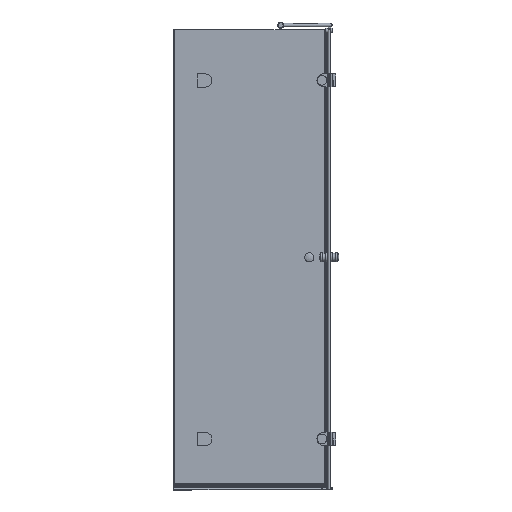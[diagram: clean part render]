
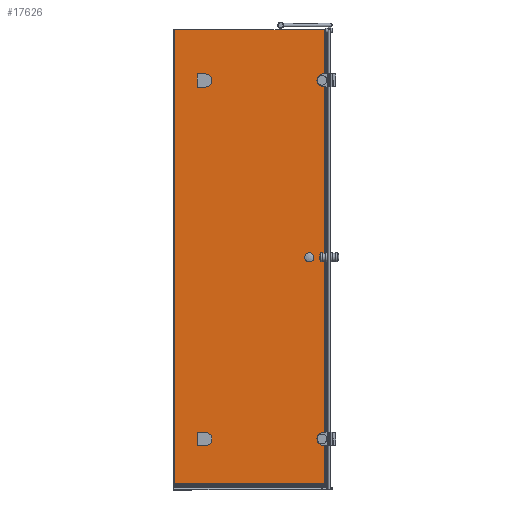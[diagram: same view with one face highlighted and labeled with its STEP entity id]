
A CAD part, front view. The second image highlights one B-rep face of the part: STEP entity #17626.
In plain terms, the highlighted planar face has unit normal (0, -1, 0).
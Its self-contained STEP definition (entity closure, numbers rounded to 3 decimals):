
#676=PLANE($,#18997);
#1148=LINE($,#25279,#2959);
#1152=LINE($,#25287,#2963);
#1156=LINE($,#25298,#2967);
#1198=LINE($,#25407,#3009);
#1202=LINE($,#25415,#3013);
#1206=LINE($,#25426,#3017);
#2384=LINE($,#28579,#4195);
#2431=LINE($,#28798,#4242);
#2432=LINE($,#28800,#4243);
#2433=LINE($,#28801,#4244);
#2959=VECTOR($,#20207,52.);
#2963=VECTOR($,#20213,23.);
#2967=VECTOR($,#20225,23.);
#3009=VECTOR($,#20331,52.);
#3013=VECTOR($,#20337,23.);
#3017=VECTOR($,#20349,23.);
#4195=VECTOR($,#23115,1875.4);
#4242=VECTOR($,#23260,620.2);
#4243=VECTOR($,#23261,1875.4);
#4244=VECTOR($,#23262,620.2);
#4563=FACE_BOUND($,#6411,.T.);
#4564=FACE_BOUND($,#6412,.T.);
#4565=FACE_BOUND($,#6413,.T.);
#6411=EDGE_LOOP($,(#14746,#14747,#14748,#14749));
#6412=EDGE_LOOP($,(#14750,#14751,#14752,#14753));
#6413=EDGE_LOOP($,(#14754,#14755,#14756,#14757));
#6742=CIRCLE($,#18115,26.);
#6754=CIRCLE($,#18152,26.);
#7404=VERTEX_POINT($,#25277);
#7405=VERTEX_POINT($,#25278);
#7408=VERTEX_POINT($,#25286);
#7410=VERTEX_POINT($,#25292);
#7445=VERTEX_POINT($,#25405);
#7446=VERTEX_POINT($,#25406);
#7449=VERTEX_POINT($,#25414);
#7451=VERTEX_POINT($,#25420);
#8309=VERTEX_POINT($,#28577);
#8310=VERTEX_POINT($,#28578);
#8367=VERTEX_POINT($,#28797);
#8368=VERTEX_POINT($,#28799);
#9020=EDGE_CURVE($,#7404,#7405,#1148,.T.);
#9024=EDGE_CURVE($,#7405,#7408,#1152,.T.);
#9027=EDGE_CURVE($,#7408,#7410,#6742,.T.);
#9030=EDGE_CURVE($,#7410,#7404,#1156,.T.);
#9082=EDGE_CURVE($,#7445,#7446,#1198,.T.);
#9086=EDGE_CURVE($,#7446,#7449,#1202,.T.);
#9089=EDGE_CURVE($,#7449,#7451,#6754,.T.);
#9092=EDGE_CURVE($,#7451,#7445,#1206,.T.);
#10517=EDGE_CURVE($,#8309,#8310,#2384,.T.);
#10598=EDGE_CURVE($,#8309,#8367,#2431,.T.);
#10599=EDGE_CURVE($,#8367,#8368,#2432,.T.);
#10600=EDGE_CURVE($,#8368,#8310,#2433,.T.);
#14746=ORIENTED_EDGE($,*,*,#9020,.F.);
#14747=ORIENTED_EDGE($,*,*,#9030,.F.);
#14748=ORIENTED_EDGE($,*,*,#9027,.F.);
#14749=ORIENTED_EDGE($,*,*,#9024,.F.);
#14750=ORIENTED_EDGE($,*,*,#9082,.F.);
#14751=ORIENTED_EDGE($,*,*,#9092,.F.);
#14752=ORIENTED_EDGE($,*,*,#9089,.F.);
#14753=ORIENTED_EDGE($,*,*,#9086,.F.);
#14754=ORIENTED_EDGE($,*,*,#10517,.F.);
#14755=ORIENTED_EDGE($,*,*,#10598,.T.);
#14756=ORIENTED_EDGE($,*,*,#10599,.T.);
#14757=ORIENTED_EDGE($,*,*,#10600,.T.);
#17626=ADVANCED_FACE($,(#4563,#4564,#4565),#676,.F.);
#18115=AXIS2_PLACEMENT_3D($,#25293,#20218,#20219);
#18152=AXIS2_PLACEMENT_3D($,#25421,#20342,#20343);
#18997=AXIS2_PLACEMENT_3D($,#28796,#23258,#23259);
#20207=DIRECTION($,(0.,0.,-1.));
#20213=DIRECTION($,(1.,0.,0.));
#20218=DIRECTION('center_axis',(0.,-1.,0.));
#20219=DIRECTION('ref_axis',(0.,0.,
1.));
#20225=DIRECTION($,(-1.,0.,0.));
#20331=DIRECTION($,(0.,0.,-1.));
#20337=DIRECTION($,(1.,0.,0.));
#20342=DIRECTION('center_axis',(0.,-1.,0.));
#20343=DIRECTION('ref_axis',(0.,0.,
1.));
#20349=DIRECTION($,(-1.,0.,0.));
#23115=DIRECTION($,(0.,0.,1.));
#23258=DIRECTION('center_axis',(0.,1.,0.));
#23259=DIRECTION('ref_axis',(-1.,0.,0.));
#23260=DIRECTION($,(1.,0.,0.));
#23261=DIRECTION($,(0.,0.,1.));
#23262=DIRECTION($,(-1.,0.,0.));
#25277=CARTESIAN_POINT('',(795.233,-98.044,-279.056));
#25278=CARTESIAN_POINT('',(795.233,-98.044,-331.056));
#25279=CARTESIAN_POINT($,(795.233,-98.044,-413.056));
#25286=CARTESIAN_POINT('',(818.233,-98.044,-331.056));
#25287=CARTESIAN_POINT($,(1067.483,-98.044,-331.056));
#25292=CARTESIAN_POINT('',(818.233,-98.044,-279.056));
#25293=CARTESIAN_POINT('Origin',(818.233,-98.044,-305.056));
#25298=CARTESIAN_POINT($,(1055.983,-98.044,-279.056));
#25405=CARTESIAN_POINT('',(795.233,-98.044,1200.944));
#25406=CARTESIAN_POINT('',(795.233,-98.044,1148.944));
#25407=CARTESIAN_POINT($,(795.233,-98.044,326.944));
#25414=CARTESIAN_POINT('',(818.233,-98.044,1148.944));
#25415=CARTESIAN_POINT($,(1067.483,-98.044,1148.944));
#25420=CARTESIAN_POINT('',(818.233,-98.044,1200.944));
#25421=CARTESIAN_POINT('Origin',(818.233,-98.044,1174.944));
#25426=CARTESIAN_POINT($,(1055.983,-98.044,1200.944));
#28577=CARTESIAN_POINT('',(691.933,-98.044,-490.456));
#28578=CARTESIAN_POINT('',(691.933,-98.044,1384.944));
#28579=CARTESIAN_POINT($,(691.933,-98.044,444.944));
#28796=CARTESIAN_POINT('Origin',(1316.733,-98.044,-495.056));
#28797=CARTESIAN_POINT('',(1312.133,-98.044,-490.456));
#28798=CARTESIAN_POINT($,(687.233,-98.044,-490.456));
#28799=CARTESIAN_POINT('',(1312.133,-98.044,1384.944));
#28800=CARTESIAN_POINT($,(1312.133,-98.044,-495.056));
#28801=CARTESIAN_POINT($,(1316.733,-98.044,1384.944));
